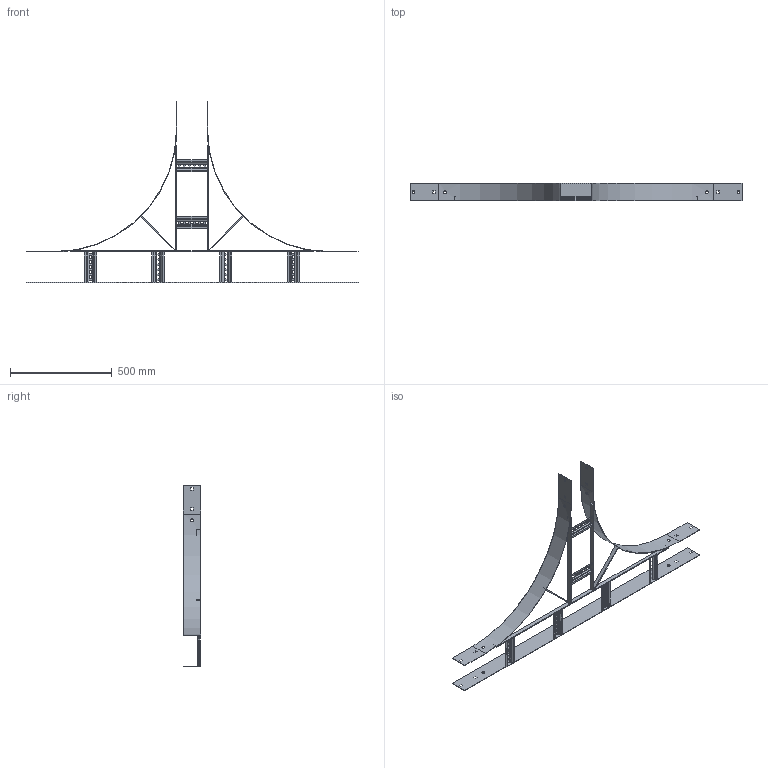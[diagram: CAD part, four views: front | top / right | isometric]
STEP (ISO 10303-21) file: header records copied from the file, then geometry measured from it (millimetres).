
FILE_DESCRIPTION (( 'STEP AP203' ), '1' );
FILE_NAME ('N2 T 1506.STEP', '2024-08-27T22:54:31', ( '' ), ( '' ), 'SwSTEP 2.0', 'SolidWorks 2023', '' );
FILE_SCHEMA (( 'CONFIG_CONTROL_DESIGN' ));
Length unit declared in the file: millimetre
Products named in the file (7): N2 Back Plate_1650; Ladder Rung_Ladder Rung -  150mm; N2 T 1506; Ladder Tee 20x5 Flat Bar_1195; N2 RADIUS PLATE_N1-600 IR; Ladder Tee 20x5 Flat Bar_240; Ladder Tee 20x5 Flat Bar_518
Assembly tree (14 placements, depth 2):
  N2 T 1506
    N2 Back Plate_1650
    Ladder Rung_Ladder Rung -  150mm  x6
    Ladder Tee 20x5 Flat Bar_1195
    N2 RADIUS PLATE_N1-600 IR  x2
    Ladder Tee 20x5 Flat Bar_518  x2
    Ladder Tee 20x5 Flat Bar_240  x2
Bounding box: 1635 x 87 x 894.5 mm (x, y, z)
Volume: 1072944.5 mm3; surface area: 988882.5 mm2
Topology: 14 solids, 14 shells, 520 faces, 1268 edges, 776 vertices
Faces by surface type: plane 456, cylinder 64
Entity records: 5541 total; most frequent: CARTESIAN_POINT 1085, ORIENTED_EDGE 712, DIRECTION 698, EDGE_CURVE 356, VECTOR 320, LINE 320, VERTEX_POINT 224, AXIS2_PLACEMENT_3D 189
